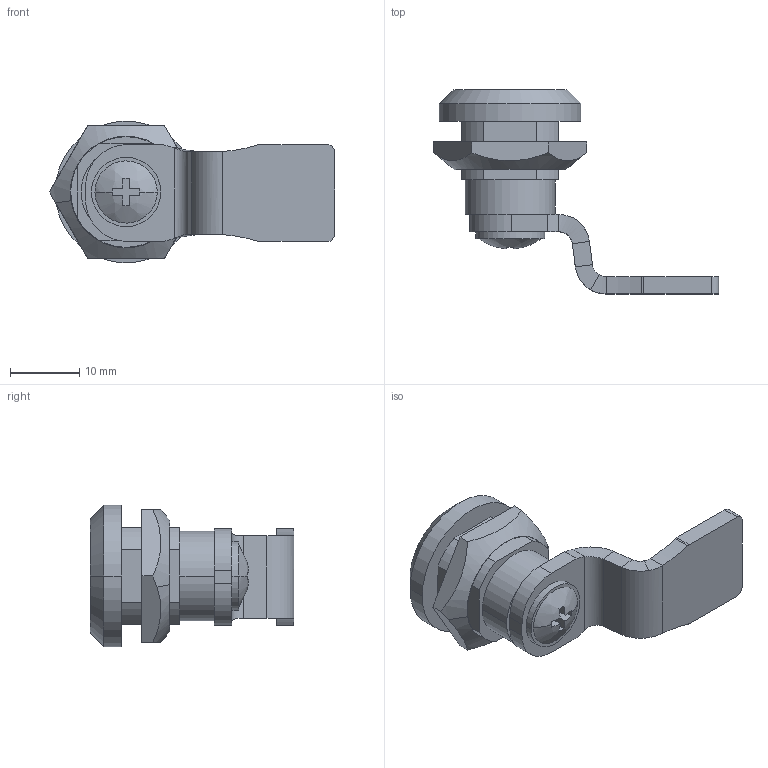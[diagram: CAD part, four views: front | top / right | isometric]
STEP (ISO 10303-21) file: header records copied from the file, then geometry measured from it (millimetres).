
FILE_DESCRIPTION (( 'STEP AP214' ), '1' );
FILE_NAME ('2.602.001.STEP', '2012-01-27T10:42:28', ( 'Techniczny' ), ( 'RST Roztocze' ), 'SwSTEP 2.0', 'SolidWorks 2010', '' );
FILE_SCHEMA (( 'AUTOMOTIVE_DESIGN' ));
Length unit declared in the file: millimetre
Products named in the file (6): nakrêtka_2; wkret1_2; jêzyk_2; korpus_2; 2.602.001; sworzen_2
Assembly tree (5 placements, depth 2):
  2.602.001
    sworzen_2
    nakrêtka_2
    korpus_2
    jêzyk_2
    wkret1_2
Bounding box: 41.24 x 29.5 x 20.5 mm (x, y, z)
Volume: 4941 mm3; surface area: 5282 mm2
Topology: 5 solids, 5 shells, 128 faces, 308 edges, 198 vertices
Faces by surface type: plane 74, cylinder 38, bspline 10, cone 6
Entity records: 6313 total; most frequent: CARTESIAN_POINT 1689, ORIENTED_EDGE 616, DIRECTION 614, EDGE_CURVE 308, AXIS2_PLACEMENT_3D 212, VERTEX_POINT 198, VECTOR 190, LINE 190
